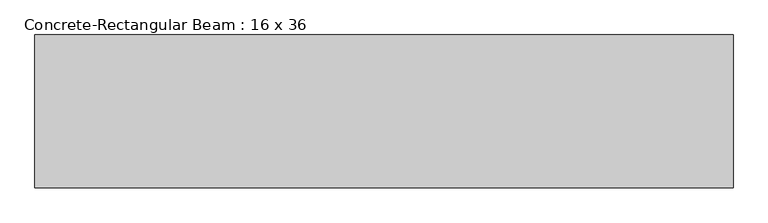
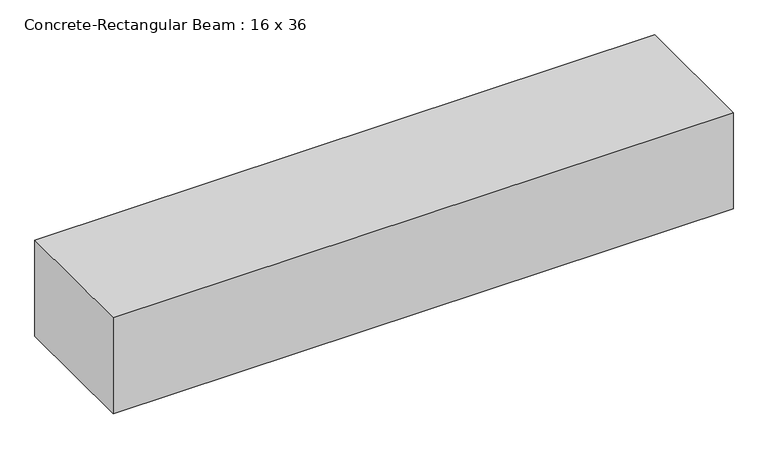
"""IFC4 building model written with IfcOpenShell, lengths in millimetres: beam geometry, Concrete-Rectangular Beam : 16 x 36."""

from ifc_helpers import new_model, si_unit, frame, origin, place, context, project, spatial, polyline, outline, extrude, source, transform, mapped, element, save


def concrete_rectangular_beam_16_x_36_d7c6fc45(model_context):
    return source(origin(), model_context, "Body", "SweptSolid", [
        extrude(outline(polyline([(1742.1459108, 381.0), (1742.1459108, -381.0), (-1742.1459108, -381.0), (-1742.1459108, 381.0), (1742.1459108, 381.0)])), frame((0.0, 0.0, -284.95625), z_axis=(0.0, 0.0, 1.0), x_axis=(1.0, 0.0, 0.0)), (0.0, 0.0, 1.0), 569.9125),
    ])


if __name__ == "__main__":
    model = new_model("IFC4")
    model_context = context("Model", 3, world=origin())
    ifc_project = project(units=[si_unit("LENGTHUNIT", "METRE", prefix="MILLI")], contexts=[model_context])
    site = spatial("IfcSite", under=ifc_project)
    building = spatial("IfcBuilding", under=site)
    placement = place(None, origin())
    concrete_rectangular_beam_16_x_36_shape = concrete_rectangular_beam_16_x_36_d7c6fc45(model_context)
    element("IfcBeam", 1, ObjectType="Concrete-Rectangular Beam : 16 x 36", at=placement, inside=building, context=model_context, shape_type="MappedRepresentation", body=[
        mapped(concrete_rectangular_beam_16_x_36_shape, transform((0.0, 0.0, 0.0), x_axis=(1.0, 0.0, 0.0), y_axis=(0.0, 1.0, 0.0), z_axis=(0.0, 0.0, 1.0))),
    ])
    save(model, "model.ifc")
